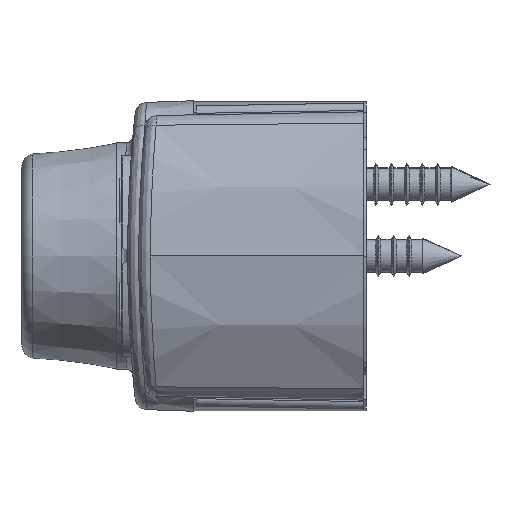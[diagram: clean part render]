
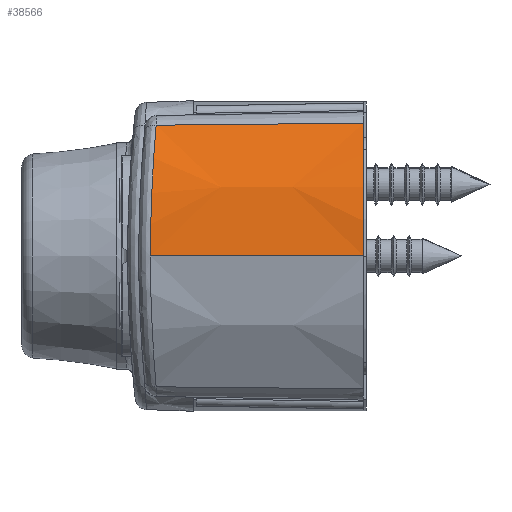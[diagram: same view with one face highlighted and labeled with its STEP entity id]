
A CAD part, left-side view. The second image highlights one B-rep face of the part: STEP entity #38566.
In plain terms, the highlighted conical face has half-angle 1 degrees and reference radius 20 mm.
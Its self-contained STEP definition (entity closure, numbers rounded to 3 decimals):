
#1174 = CARTESIAN_POINT ( 'NONE',  ( -20.138, 0., 0. ) ) ;
#2413 = CARTESIAN_POINT ( 'NONE',  ( -17.033, 17.535, 10.204 ) ) ;
#8515 = EDGE_CURVE ( 'NONE', #39574, #26508, #50912, .T. ) ;
#11393 = DIRECTION ( 'NONE',  ( 0., 1., 0. ) ) ;
#14549 = CARTESIAN_POINT ( 'NONE',  ( -18.679, 17.77, 6.669 ) ) ;
#16673 = CARTESIAN_POINT ( 'NONE',  ( 0., 7.9, 0. ) ) ;
#20065 = ORIENTED_EDGE ( 'NONE', *, *, #25043, .T. ) ;
#20137 = CARTESIAN_POINT ( 'NONE',  ( -18.138, 17.691, 8.028 ) ) ;
#20389 = CARTESIAN_POINT ( 'NONE',  ( -19.681, 17.923, 2.436 ) ) ;
#21432 = CONICAL_SURFACE ( 'NONE', #45366, 20., 0.017 ) ;
#21749 = VECTOR ( 'NONE', #36132, 1000. ) ;
#23703 = CARTESIAN_POINT ( 'NONE',  ( -16.744, 0., 11.188 ) ) ;
#24056 = CARTESIAN_POINT ( 'NONE',  ( -20., 7.9, 0. ) ) ;
#24300 = EDGE_CURVE ( 'NONE', #26508, #65059, #64218, .T. ) ;
#24546 = EDGE_LOOP ( 'NONE', ( #62665, #72345, #58116, #20065 ) ) ;
#25043 = EDGE_CURVE ( 'NONE', #58576, #39574, #59559, .T. ) ;
#25397 = CIRCLE ( 'NONE', #62506, 20.138 ) ;
#26508 = VERTEX_POINT ( 'NONE', #46833 ) ;
#31035 = CARTESIAN_POINT ( 'NONE',  ( -19.735, 17.931, 1.949 ) ) ;
#32035 = CARTESIAN_POINT ( 'NONE',  ( -19.807, 17.942, 0.972 ) ) ;
#32665 = CARTESIAN_POINT ( 'NONE',  ( -16.63, 7.9, 11.111 ) ) ;
#36132 = DIRECTION ( 'NONE',  ( -0.017, -1., 0. ) ) ;
#36844 = CARTESIAN_POINT ( 'NONE',  ( -19.255, 17.857, 4.822 ) ) ;
#37607 = CARTESIAN_POINT ( 'NONE',  ( -17.513, 17.602, 9.355 ) ) ;
#38566 = ADVANCED_FACE ( 'NONE', ( #61192 ), #21432, .T. ) ;
#39574 = VERTEX_POINT ( 'NONE', #56921 ) ;
#41836 = EDGE_CURVE ( 'NONE', #65059, #58576, #25397, .T. ) ;
#43155 = CARTESIAN_POINT ( 'NONE',  ( -16.491, 17.464, 11.018 ) ) ;
#45366 = AXIS2_PLACEMENT_3D ( 'NONE', #16673, #68711, #50853 ) ;
#46833 = CARTESIAN_POINT ( 'NONE',  ( -19.825, 17.945, 0. ) ) ;
#48750 = CARTESIAN_POINT ( 'NONE',  ( -18.836, 17.793, 6.211 ) ) ;
#49237 = CARTESIAN_POINT ( 'NONE',  ( -18.33, 17.719, 7.578 ) ) ;
#50627 = DIRECTION ( 'NONE',  ( 0.015, 1., -0.01 ) ) ;
#50853 = DIRECTION ( 'NONE',  ( -1., 0., 0. ) ) ;
#50912 = B_SPLINE_CURVE_WITH_KNOTS ( 'NONE', 3,
 ( #43155, #2413, #37607, #20137, #49237, #14549, #48750, #36844, #55042, #20389, #31035, #32035, #71379, #72365 ),
 .UNSPECIFIED., .F., .F.,
 ( 4, 2, 2, 2, 2, 2, 4 ),
 ( 0., 0.003, 0.004, 0.006, 0.009, 0.01, 0.012 ),
 .UNSPECIFIED. ) ;
#53128 = DIRECTION ( 'NONE',  ( 0., 0., 1. ) ) ;
#55042 = CARTESIAN_POINT ( 'NONE',  ( -19.467, 17.889, 3.878 ) ) ;
#56921 = CARTESIAN_POINT ( 'NONE',  ( -16.491, 17.464, 11.018 ) ) ;
#58116 = ORIENTED_EDGE ( 'NONE', *, *, #41836, .T. ) ;
#58576 = VERTEX_POINT ( 'NONE', #23703 ) ;
#58686 = VECTOR ( 'NONE', #50627, 1000. ) ;
#59559 = LINE ( 'NONE', #32665, #58686 ) ;
#61192 = FACE_OUTER_BOUND ( 'NONE', #24546, .T. ) ;
#62506 = AXIS2_PLACEMENT_3D ( 'NONE', #70489, #11393, #53128 ) ;
#62665 = ORIENTED_EDGE ( 'NONE', *, *, #8515, .T. ) ;
#64218 = LINE ( 'NONE', #24056, #21749 ) ;
#65059 = VERTEX_POINT ( 'NONE', #1174 ) ;
#68711 = DIRECTION ( 'NONE',  ( 0., -1., 0. ) ) ;
#70489 = CARTESIAN_POINT ( 'NONE',  ( 0., 0., 0. ) ) ;
#71379 = CARTESIAN_POINT ( 'NONE',  ( -19.825, 17.945, 0.485 ) ) ;
#72345 = ORIENTED_EDGE ( 'NONE', *, *, #24300, .T. ) ;
#72365 = CARTESIAN_POINT ( 'NONE',  ( -19.825, 17.945, 0. ) ) ;
